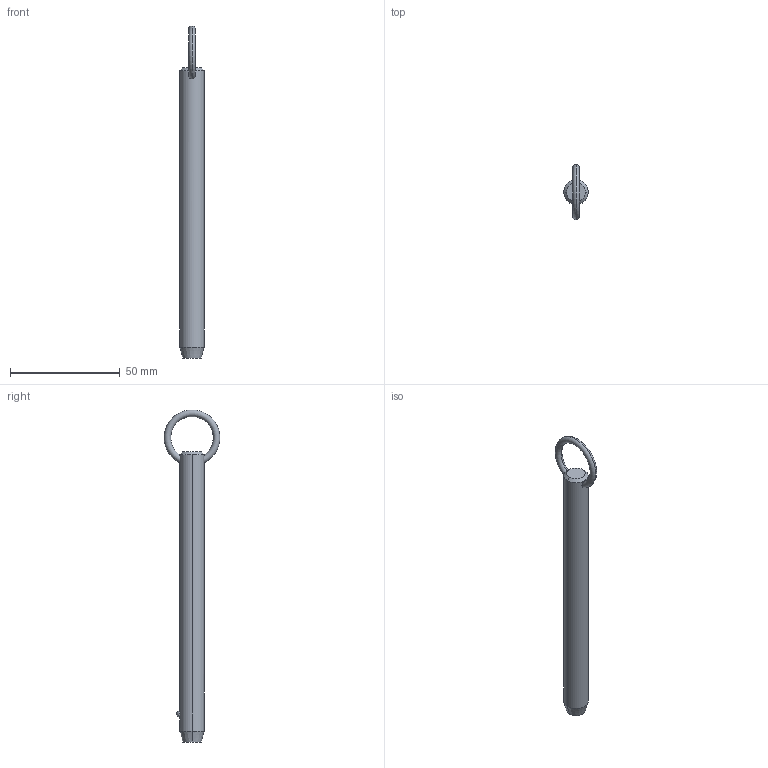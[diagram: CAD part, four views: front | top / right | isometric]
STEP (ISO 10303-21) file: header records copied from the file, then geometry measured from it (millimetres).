
FILE_DESCRIPTION (( 'STEP AP203' ), '1' );
FILE_NAME ('P1250.050-440.step', '2019-07-29T20:37:06', ( '' ), ( '' ), 'SwSTEP 2.0', 'SolidWorks 2017', '' );
FILE_SCHEMA (( 'CONFIG_CONTROL_DESIGN' ));
Length unit declared in the file: millimetre
Products named in the file (1): P1250.050-440
Bounding box: 11.1 x 25.32 x 151.35 mm (x, y, z)
Volume: 13094.9 mm3; surface area: 5269.7 mm2
Topology: 1 solids, 1 shells, 12 faces, 28 edges, 17 vertices
Faces by surface type: cone 4, torus 2, sphere 2, cylinder 2, plane 2
Entity records: 523 total; most frequent: CARTESIAN_POINT 190, DIRECTION 56, ORIENTED_EDGE 48, AXIS2_PLACEMENT_3D 25, EDGE_CURVE 24, EDGE_LOOP 15, VERTEX_POINT 15, CIRCLE 12
